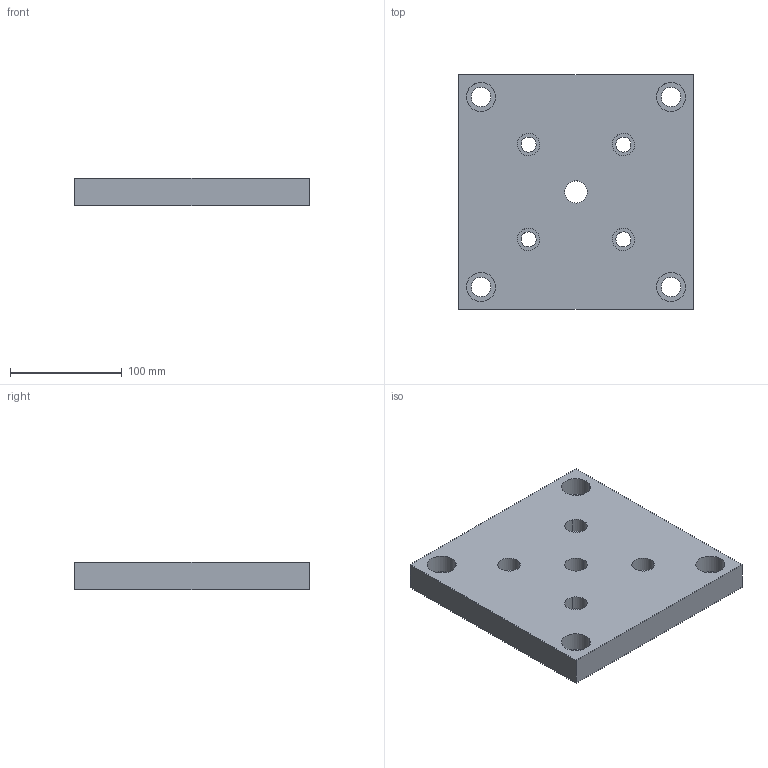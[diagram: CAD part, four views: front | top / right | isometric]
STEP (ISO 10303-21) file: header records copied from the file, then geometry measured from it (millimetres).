
FILE_DESCRIPTION(('CATIA V5 STEP Exchange'),'2;1');
FILE_NAME('W:\LIBRERIA TECAPRES®\DIBUJOS STRACK 2012\BRIDAS\FB\FB 195.stp','2013-04-08T11:18:53+00:00',('none'),('none'),'CATIA Version 5 Release 17 (IN-10)','CATIA V5 STEP AP203','none');
FILE_SCHEMA(('CONFIG_CONTROL_DESIGN'));
Length unit declared in the file: millimetre
Products named in the file (1): FB 195
Bounding box: 210 x 210 x 25 mm (x, y, z)
Volume: 1027639 mm3; surface area: 119689.8 mm2
Topology: 1 solids, 1 shells, 48 faces, 114 edges, 76 vertices
Faces by surface type: cylinder 34, plane 14
Entity records: 1321 total; most frequent: ORIENTED_EDGE 228, CARTESIAN_POINT 216, DIRECTION 164, EDGE_CURVE 114, AXIS2_PLACEMENT_3D 94, VERTEX_POINT 76, EDGE_LOOP 74, CIRCLE 68
